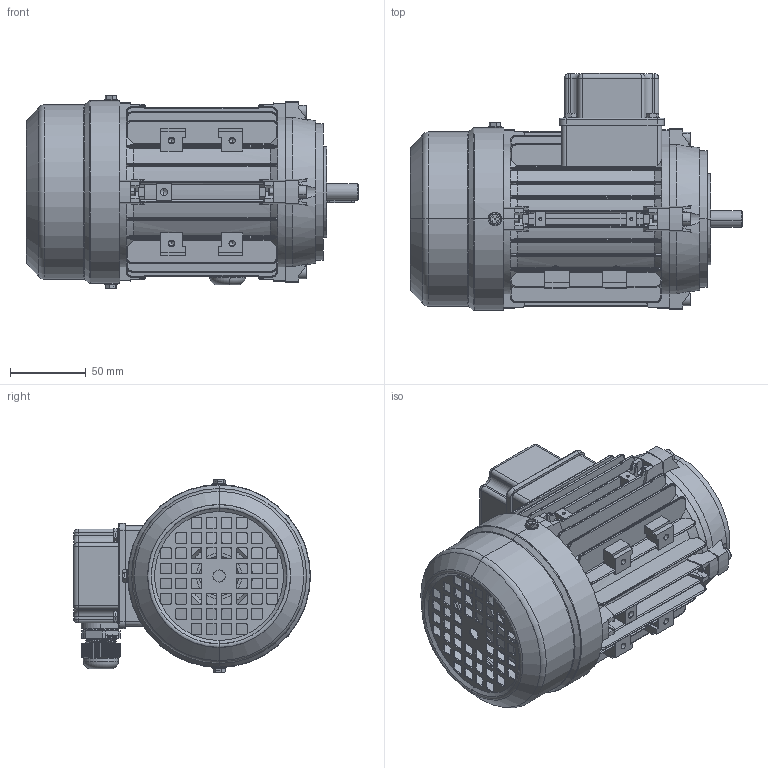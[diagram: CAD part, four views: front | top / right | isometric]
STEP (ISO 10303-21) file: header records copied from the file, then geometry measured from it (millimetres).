
FILE_DESCRIPTION (( 'STEP AP203' ), '1' );
FILE_NAME ('MSL63 assembly B14.STEP', '2017-11-26T09:35:20', ( 'user' ), ( 'china' ), 'SwSTEP 2.0', 'SolidWorks 2016', '' );
FILE_SCHEMA (( 'CONFIG_CONTROL_DESIGN' ));
Length unit declared in the file: millimetre
Products named in the file (13): MSL63 assembly B14; MSL63-儂褲; M63-Shaft drive end_S; GB-T 5780-2000 M5_020; M63傷裔B3_Post; M63傷裔B14; M20 cable gland; GB-T 29.2-1988 M4鞠褒坋趼湍菜_05; MSL63-71堤盄碟; M63瑞欶; GB-T 70.1-2000 M5_20; MSL63-71堤盄碟蚾饜; MS63 綴裔瑞欶郪磁
Assembly tree (24 placements, depth 3):
  MSL63 assembly B14
    MSL63-儂褲
    MS63 綴裔瑞欶郪磁
      M63傷裔B3_Post
      M63瑞欶
      GB-T 29.2-1988 M4鞠褒坋趼湍菜_05  x3
    MSL63-71堤盄碟蚾饜
      MSL63-71堤盄碟
      GB-T 29.2-1988 M4鞠褒坋趼湍菜_05  x4
      M20 cable gland
    M63-Shaft drive end_S
    GB-T 70.1-2000 M5_20  x4
    GB-T 5780-2000 M5_020  x4
    M63傷裔B14
Bounding box: 219 x 156.3 x 127.4 mm (x, y, z)
Volume: 352502.1 mm3; surface area: 308706.9 mm2
Topology: 22 solids, 22 shells, 2908 faces, 7553 edges, 4707 vertices
Faces by surface type: plane 1241, cylinder 1106, cone 204, bspline 204, torus 153
Entity records: 98802 total; most frequent: CARTESIAN_POINT 36331, ORIENTED_EDGE 13286, DIRECTION 12186, EDGE_CURVE 6643, AXIS2_PLACEMENT_3D 4436, VERTEX_POINT 4230, VECTOR 3314, LINE 3314
